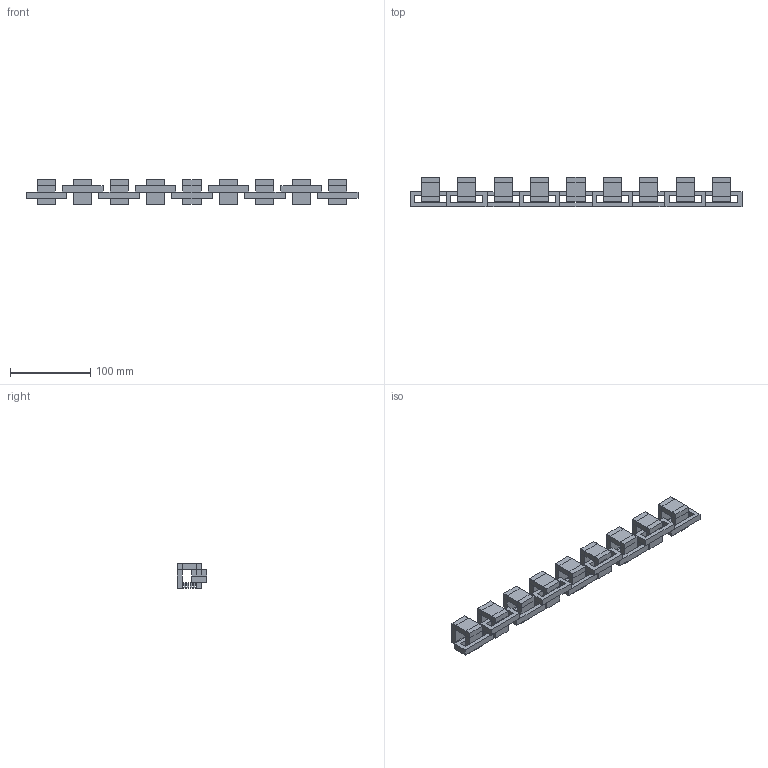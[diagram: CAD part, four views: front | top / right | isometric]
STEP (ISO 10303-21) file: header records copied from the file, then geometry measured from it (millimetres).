
FILE_DESCRIPTION(('Open CASCADE Model'),'2;1');
FILE_NAME('Open CASCADE Shape Model','2026-08-14T13:04:22',('Author'),( 'Open CASCADE'),'Open CASCADE STEP processor 7.7','Open CASCADE 7.7' ,'Unknown');
FILE_SCHEMA(('AUTOMOTIVE_DESIGN { 1 0 10303 214 1 1 1 1 }'));
Length unit declared in the file: millimetre
Products named in the file (73): Open CASCADE STEP translator 7.7 4; Open CASCADE STEP translator 7.7 4.1; Open CASCADE STEP translator 7.7 4.2; Open CASCADE STEP translator 7.7 4.3; Open CASCADE STEP translator 7.7 4.4; Open CASCADE STEP translator 7.7 4.5; Open CASCADE STEP translator 7.7 4.6; Open CASCADE STEP translator 7.7 4.7; Open CASCADE STEP translator 7.7 4.8; Open CASCADE STEP translator 7.7 4.9; Open CASCADE STEP translator 7.7 4.10; Open CASCADE STEP translator 7.7 4.11; Open CASCADE STEP translator 7.7 4.12; Open CASCADE STEP translator 7.7 4.13; Open CASCADE STEP translator 7.7 4.14; Open CASCADE STEP translator 7.7 4.15; Open CASCADE STEP translator 7.7 4.16; Open CASCADE STEP translator 7.7 4.17; Open CASCADE STEP translator 7.7 4.18; Open CASCADE STEP translator 7.7 4.19; Open CASCADE STEP translator 7.7 4.20; Open CASCADE STEP translator 7.7 4.21; Open CASCADE STEP translator 7.7 4.22; Open CASCADE STEP translator 7.7 4.23; Open CASCADE STEP translator 7.7 4.24; Open CASCADE STEP translator 7.7 4.25; Open CASCADE STEP translator 7.7 4.26; Open CASCADE STEP translator 7.7 4.27; Open CASCADE STEP translator 7.7 4.28; Open CASCADE STEP translator 7.7 4.29; Open CASCADE STEP translator 7.7 4.30; Open CASCADE STEP translator 7.7 4.31; Open CASCADE STEP translator 7.7 4.32; Open CASCADE STEP translator 7.7 4.33; Open CASCADE STEP translator 7.7 4.34; Open CASCADE STEP translator 7.7 4.35; Open CASCADE STEP translator 7.7 4.36; Open CASCADE STEP translator 7.7 4.37; Open CASCADE STEP translator 7.7 4.38; Open CASCADE STEP translator 7.7 4.39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
Assembly tree (72 placements, depth 2):
  Open CASCADE STEP translator 7.7 4
    Open CASCADE STEP translator 7.7 4.1
    Open CASCADE STEP translator 7.7 4.2
    Open CASCADE STEP translator 7.7 4.3
    Open CASCADE STEP translator 7.7 4.4
    Open CASCADE STEP translator 7.7 4.5
    Open CASCADE STEP translator 7.7 4.6
    Open CASCADE STEP translator 7.7 4.7
    Open CASCADE STEP translator 7.7 4.8
    Open CASCADE STEP translator 7.7 4.9
    Open CASCADE STEP translator 7.7 4.10
    Open CASCADE STEP translator 7.7 4.11
    Open CASCADE STEP translator 7.7 4.12
    Open CASCADE STEP translator 7.7 4.13
    Open CASCADE STEP translator 7.7 4.14
    Open CASCADE STEP translator 7.7 4.15
    Open CASCADE STEP translator 7.7 4.16
    Open CASCADE STEP translator 7.7 4.17
    Open CASCADE STEP translator 7.7 4.18
    Open CASCADE STEP translator 7.7 4.19
    Open CASCADE STEP translator 7.7 4.20
    Open CASCADE STEP translator 7.7 4.21
    Open CASCADE STEP translator 7.7 4.22
    Open CASCADE STEP translator 7.7 4.23
    Open CASCADE STEP translator 7.7 4.24
    Open CASCADE STEP translator 7.7 4.25
    Open CASCADE STEP translator 7.7 4.26
    Open CASCADE STEP translator 7.7 4.27
    Open CASCADE STEP translator 7.7 4.28
    Open CASCADE STEP translator 7.7 4.29
    Open CASCADE STEP translator 7.7 4.30
    Open CASCADE STEP translator 7.7 4.31
    Open CASCADE STEP translator 7.7 4.32
    Open CASCADE STEP translator 7.7 4.33
    Open CASCADE STEP translator 7.7 4.34
    Open CASCADE STEP translator 7.7 4.35
    Open CASCADE STEP translator 7.7 4.36
    Open CASCADE STEP translator 7.7 4.37
    Open CASCADE STEP translator 7.7 4.38
    Open CASCADE STEP translator 7.7 4.39
    Open CASCADE STEP translator 7.7 4.40
    Open CASCADE STEP translator 7.7 4.41
    Open CASCADE STEP translator 7.7 4.42
    Open CASCADE STEP translator 7.7 4.43
    Open CASCADE STEP translator 7.7 4.44
    Open CASCADE STEP translator 7.7 4.45
    Open CASCADE STEP translator 7.7 4.46
    Open CASCADE STEP translator 7.7 4.47
    Open CASCADE STEP translator 7.7 4.48
    Open CASCADE STEP translator 7.7 4.49
    Open CASCADE STEP translator 7.7 4.50
    Open CASCADE STEP translator 7.7 4.51
    Open CASCADE STEP translator 7.7 4.52
    Open CASCADE STEP translator 7.7 4.53
    Open CASCADE STEP translator 7.7 4.54
    Open CASCADE STEP translator 7.7 4.55
    Open CASCADE STEP translator 7.7 4.56
    Open CASCADE STEP translator 7.7 4.57
    Open CASCADE STEP translator 7.7 4.58
    Open CASCADE STEP translator 7.7 4.59
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Bounding box: 412.9 x 37.24 x 30 mm (x, y, z)
Volume: 183436.9 mm3; surface area: 100347.1 mm2
Topology: 72 solids, 72 shells, 468 faces, 972 edges, 648 vertices
Faces by surface type: plane 468
Entity records: 25828 total; most frequent: CARTESIAN_POINT 4249, DIRECTION 3854, LINE 2772, VECTOR 2772, ORIENTED_EDGE 1944, PCURVE 1944, DEFINITIONAL_REPRESENTATION 1944, EDGE_CURVE 972
